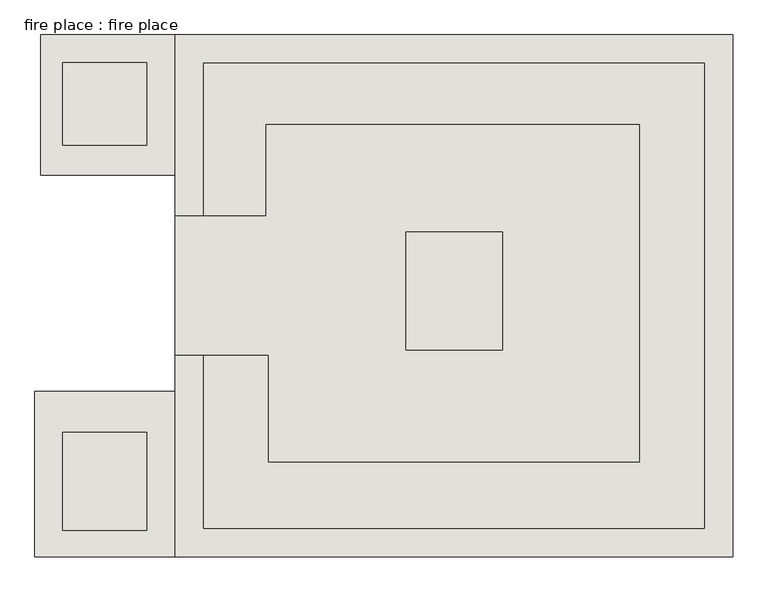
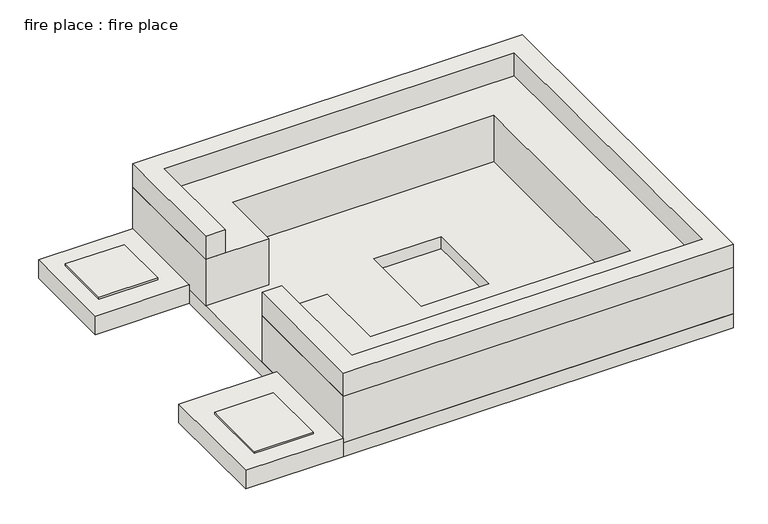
"""IFC4 building model written with IfcOpenShell, lengths in millimetres: wall geometry, fire place : fire place."""

from ifc_helpers import new_model, si_unit, frame, origin, place, context, project, spatial, polyline, outline, extrude, faceted_brep, source, transform, mapped, element, save


def fire_place_fire_place_b6a90d6d(model_context):
    return source(origin(), model_context, "Body", "SolidModel", [
        extrude(outline(polyline([(5661.1052664, 10410.5987575), (5661.1052664, 9819.4726137), (5061.1052664, 9819.4726137), (5061.1052664, 10410.5987575), (5661.1052664, 10410.5987575)])), frame((0.0, 0.0, 25600.0), z_axis=(0.0, 0.0, 1.0), x_axis=(1.0, 0.0, 0.0)), (0.0, 0.0, 1.0), 120.0),
        extrude(outline(polyline([(5661.1052664, 7771.892617), (5661.1052664, 7071.892617), (5061.1052664, 7071.892617), (5061.1052664, 7771.892617), (5661.1052664, 7771.892617)])), frame((0.0, 0.0, 25600.0), z_axis=(0.0, 0.0, 1.0), x_axis=(1.0, 0.0, 0.0)), (0.0, 0.0, 1.0), 120.0),
        extrude(outline(polyline([(4862.7526022, 6882.4487555), (4862.7526022, 8062.4487555), (5862.7526022, 8062.4487555), (5862.7526022, 6882.4487555), (4862.7526022, 6882.4487555)]), holes=[polyline([(5661.1052664, 7771.892617), (5061.1052664, 7771.892617), (5061.1052664, 7071.892617), (5661.1052664, 7071.892617), (5661.1052664, 7771.892617)])]), frame((0.0, 0.0, 25500.0), z_axis=(0.0, 0.0, 1.0), x_axis=(1.0, 0.0, 0.0)), (0.0, 0.0, 1.0), 200.0),
        extrude(outline(polyline([(4902.7526022, 10607.8173404), (5862.7526022, 10607.8173404), (5862.7526022, 9607.8173404), (4902.7526022, 9607.8173404), (4902.7526022, 10607.8173404)]), holes=[polyline([(5661.1052664, 10410.5987575), (5061.1052664, 10410.5987575), (5061.1052664, 9819.4726137), (5661.1052664, 9819.4726137), (5661.1052664, 10410.5987575)])]), frame((0.0, 0.0, 25500.0), z_axis=(0.0, 0.0, 1.0), x_axis=(1.0, 0.0, 0.0)), (0.0, 0.0, 1.0), 200.0),
        extrude(outline(polyline([(5862.7526022, 10607.8173404), (9841.5472861, 10607.8173404), (9841.5472861, 6882.4487555), (5862.7526022, 6882.4487555), (5862.7526022, 8319.6937664), (6062.7526022, 8319.6937664), (6062.7526022, 7082.4487555), (9641.5472861, 7082.4487555), (9641.5472861, 10407.8173404), (6062.7526022, 10407.8173404), (6062.7526022, 9319.6937664), (5862.7526022, 9319.6937664), (5862.7526022, 10607.8173404)])), frame((0.0, 0.0, 26150.0), z_axis=(0.0, 0.0, 1.0), x_axis=(1.0, 0.0, 0.0)), (0.0, 0.0, 1.0), 250.0),
        extrude(outline(polyline([(6507.484499, 9969.6895677), (6507.484499, 9319.6937664), (5862.7526022, 9319.6937664), (5862.7526022, 10607.8173404), (9841.5472861, 10607.8173404), (9841.5472861, 6882.4487555), (5862.7526022, 6882.4487555), (5862.7526022, 8319.6937664), (6526.1838597, 8319.6937664), (6526.1838597, 7556.849969), (9180.0654712, 7556.849969), (9180.0654712, 9969.6895677), (6507.484499, 9969.6895677)])), frame((0.0, 0.0, 25650.0), z_axis=(0.0, 0.0, 1.0), x_axis=(1.0, 0.0, 0.0)), (0.0, 0.0, 1.0), 500.0),
        faceted_brep([(9841.5472861, 10607.8173404, 25650.0), (5862.7526022, 10607.8173404, 25650.0), (5862.7526022, 6882.4487555, 25650.0), (9841.5472861, 6882.4487555, 25650.0), (7512.1123836, 9201.2544359, 25650.0), (8198.9236571, 9201.2544359, 25650.0), (8198.9236571, 8359.6937664, 25650.0), (7512.1123836, 8359.6937664, 25650.0), (9841.5472861, 10607.8173404, 25500.0), (9841.5472861, 6882.4487555, 25500.0), (5862.7526022, 6882.4487555, 25500.0), (5862.7526022, 10607.8173404, 25500.0), (8198.9236571, 9201.2544359, 25520.0), (7512.1123836, 9201.2544359, 25520.0), (7512.1123836, 8359.6937664, 25520.0), (8198.9236571, 8359.6937664, 25520.0)], [[[0, 1, 2, 3], [4, 5, 6, 7]], [[8, 9, 10, 11]], [[1, 0, 8, 11]], [[2, 1, 11, 10]], [[3, 2, 10, 9]], [[0, 3, 9, 8]], [[12, 13, 14, 15]], [[13, 12, 5, 4]], [[14, 13, 4, 7]], [[15, 14, 7, 6]], [[12, 15, 6, 5]]]),
    ])


if __name__ == "__main__":
    model = new_model("IFC4")
    model_context = context("Model", 3, world=origin())
    ifc_project = project(units=[si_unit("LENGTHUNIT", "METRE", prefix="MILLI")], contexts=[model_context])
    site = spatial("IfcSite", under=ifc_project)
    building = spatial("IfcBuilding", under=site)
    placement = place(None, origin())
    fire_place_fire_place_shape = fire_place_fire_place_b6a90d6d(model_context)
    element("IfcWall", 1, ObjectType="fire place : fire place", at=placement, inside=building, context=model_context, shape_type="MappedRepresentation", body=[
        mapped(fire_place_fire_place_shape, transform((0.0, 0.0, 0.0), x_axis=(1.0, 0.0, 0.0), y_axis=(0.0, 1.0, 0.0), z_axis=(0.0, 0.0, 1.0))),
    ])
    save(model, "model.ifc")
